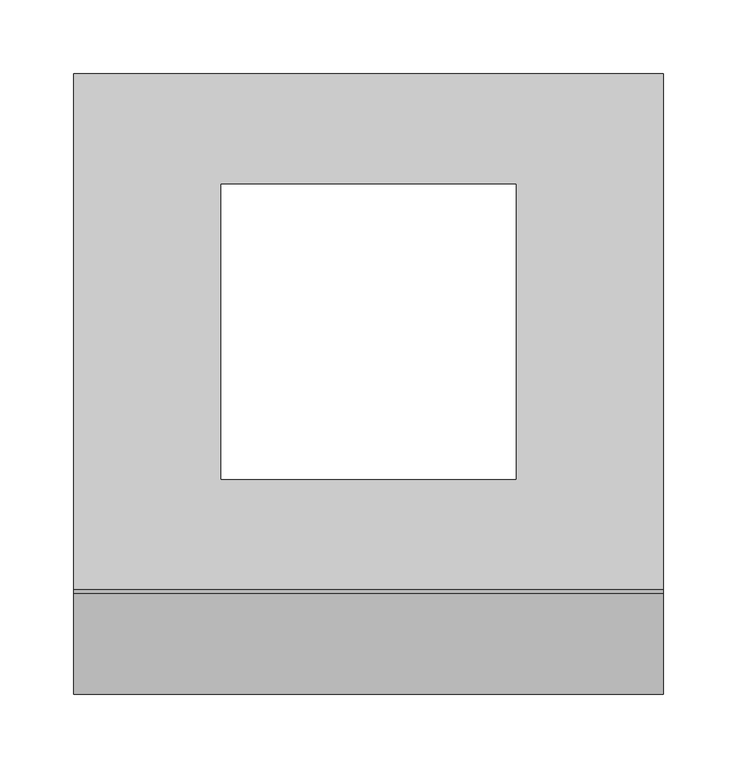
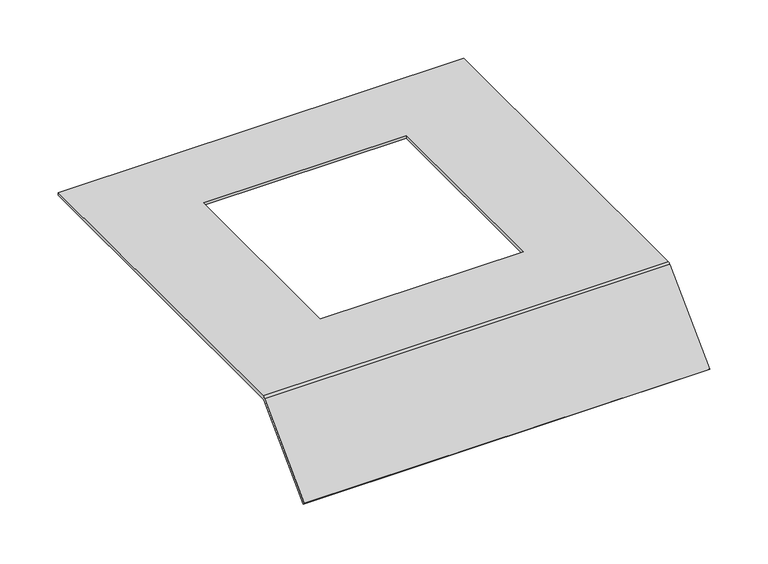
"""IFC4 building model written with IfcOpenShell, lengths in millimetres: proxy geometry, Electrical_Installation_Hager_Covers-With-Installation-Opening-Q06 : Electrical_Installation_Hager_Covers-With-Installation-Opening-Q06."""

from ifc_helpers import new_model, si_unit, frame, origin, place, context, project, spatial, polyline, circle_curve, source, transform, mapped, element, save
from ifc_brep_helpers import plane_surface, cylinder_surface, revolved_surface, advanced_brep


def electrical_fixtures_c0be5deb(model_context):
    return source(origin(), model_context, "Body", "AdvancedBrep", [
        advanced_brep(
        [(0.0, 175.0, 40.5), (0.0, 175.0, 37.5), (0.0, -174.8229541, 37.5), (0.0, -175.8322972, 37.0819164), (0.0, -243.712807, -30.7985934), (0.0, -245.8341273, -28.6772731), (0.0, -177.8206472, 39.336207), (0.0, -175.0110025, 40.5), (400.0, 175.0, 40.5), (400.0, -175.0110025, 40.5), (400.0, -177.8206472, 39.336207), (400.0, -245.8341273, -28.6772731), (400.0, -243.712807, -30.7985934), (400.0, -175.8322972, 37.0819164), (400.0, -174.8229541, 37.5), (400.0, 175.0, 37.5), (300.0, 100.0, 37.5), (100.0, 100.0, 37.5), (100.0, -100.0, 37.5), (300.0, -100.0, 37.5), (100.0, 100.0, 40.5), (300.0, 100.0, 40.5), (300.0, -100.0, 40.5), (100.0, -100.0, 40.5)],
        [
            (0, 1),
            (1, 2),
            (2, 3, circle_curve(frame((0.0, -174.8229541, 36.0725733), z_axis=(1.0, 0.0, 0.0), x_axis=(0.0, 1.0, 0.0)), 1.4274267)),
            (3, 4),
            (4, 5),
            (5, 6),
            (6, 7, circle_curve(frame((0.0, -175.0110025, 36.5265623), z_axis=(-1.0, 0.0, 0.0), x_axis=(0.0, 1.0, 0.0)), 3.9734377)),
            (7, 0),
            (8, 9),
            (9, 10, circle_curve(frame((400.0, -175.0110025, 36.5265623), z_axis=(1.0, 0.0, 0.0), x_axis=(0.0, 1.0, 0.0)), 3.9734377)),
            (10, 11),
            (11, 12),
            (12, 13),
            (13, 14, circle_curve(frame((400.0, -174.8229541, 36.0725733), z_axis=(-1.0, 0.0, 0.0), x_axis=(0.0, 1.0, 0.0)), 1.4274267)),
            (14, 15),
            (15, 8),
            (0, 8),
            (15, 1),
            (14, 2),
            (16, 17),
            (17, 18),
            (18, 19),
            (19, 16),
            (13, 3),
            (12, 4),
            (11, 5),
            (10, 6),
            (9, 7),
            (20, 21),
            (21, 22),
            (22, 23),
            (23, 20),
            (16, 21),
            (20, 17),
            (23, 18),
            (22, 19),
        ],
        [
            plane_surface(frame((0.0, 0.3269864, 15.0), z_axis=(-1.0, 0.0, 0.0), x_axis=(0.0, 0.0, 1.0))),
            plane_surface(frame((400.0, 0.3269864, 15.0), z_axis=(1.0, 0.0, 0.0), x_axis=(0.0, 0.0, 1.0))),
            plane_surface(frame((0.0, 175.0, 40.5), z_axis=(0.0, 1.0, 0.0), x_axis=(1.0, 0.0, 0.0))),
            plane_surface(frame((0.0, 175.0, 37.5), z_axis=(0.0, 0.0, -1.0), x_axis=(1.0, 0.0, 0.0))),
            revolved_surface(polyline([(400.0, -173.3955274, 36.0725733), (0.0, -173.3955274, 36.0725733)]), (0.0, -174.8229541, 36.0725733), (1.0, 0.0, 0.0)),
            plane_surface(frame((0.0, -175.8322972, 37.0819164), z_axis=(0.0, 0.7071067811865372, -0.7071067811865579), x_axis=(1.0, 0.0, 0.0))),
            plane_surface(frame((0.0, -243.712807, -30.7985934), z_axis=(0.0, -0.7071067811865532, -0.7071067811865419), x_axis=(1.0, 0.0, 0.0))),
            plane_surface(frame((0.0, -245.8341273, -28.6772731), z_axis=(0.0, -0.7071067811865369, 0.7071067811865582), x_axis=(1.0, 0.0, 0.0))),
            cylinder_surface(frame((0.0, -175.0110025, 36.5265623), z_axis=(-1.0, 0.0, 0.0), x_axis=(0.0, 1.0, 0.0)), 3.9734377),
            plane_surface(frame((0.0, -175.0110025, 40.5), z_axis=(0.0, 0.0, 1.0), x_axis=(1.0, 0.0, 0.0))),
            plane_surface(frame((300.0, 100.0, 250.0), z_axis=(0.0, -1.0, 0.0), x_axis=(0.0, 0.0, -1.0))),
            plane_surface(frame((100.0, 100.0, 250.0), z_axis=(1.0, 0.0, 0.0), x_axis=(0.0, 0.0, -1.0))),
            plane_surface(frame((100.0, -100.0, 250.0), z_axis=(0.0, 1.0, 0.0), x_axis=(0.0, 0.0, -1.0))),
            plane_surface(frame((300.0, -100.0, 250.0), z_axis=(-1.0, 0.0, 0.0), x_axis=(0.0, 0.0, -1.0))),
        ],
        [
            (0, [[1, 2, 3, 4, 5, 6, 7, 8]]),
            (1, [[9, 10, 11, 12, 13, 14, 15, 16]]),
            (2, [[-1, 17, -16, 18]]),
            (3, [[-2, -18, -15, 19], [20, 21, 22, 23]]),
            (4, [[-3, -19, -14, 24]]),
            (5, [[-4, -24, -13, 25]]),
            (6, [[-5, -25, -12, 26]]),
            (7, [[-6, -26, -11, 27]]),
            (8, [[-7, -27, -10, 28]]),
            (9, [[-8, -28, -9, -17], [29, 30, 31, 32]]),
            (10, [[33, -29, 34, -20]]),
            (11, [[-34, -32, 35, -21]]),
            (12, [[-35, -31, 36, -22]]),
            (13, [[-33, -23, -36, -30]]),
        ],
    ),
    ])


if __name__ == "__main__":
    model = new_model("IFC4")
    model_context = context("Model", 3, world=origin())
    ifc_project = project(units=[si_unit("LENGTHUNIT", "METRE", prefix="MILLI")], contexts=[model_context])
    site = spatial("IfcSite", under=ifc_project)
    building = spatial("IfcBuilding", under=site)
    placement = place(None, origin())
    electrical_fixtures_shape = electrical_fixtures_c0be5deb(model_context)
    element("IfcBuildingElementProxy", 1, Name="Electrical_Installation_Hager_Covers-With-Installation-Opening-Q06 : Electrical_Installation_Hager_Covers-With-Installation-Opening-Q06", ObjectType="Electrical_Installation_Hager_Covers-With-Installation-Opening-Q06 : Electrical_Installation_Hager_Covers-With-Installation-Opening-Q06", at=placement, inside=building, context=model_context, shape_type="MappedRepresentation", body=[
        mapped(electrical_fixtures_shape, transform((0.0, 0.0, 0.0), x_axis=(1.0, 0.0, 0.0), y_axis=(0.0, 1.0, 0.0), z_axis=(0.0, 0.0, 1.0))),
    ])
    save(model, "model.ifc")
